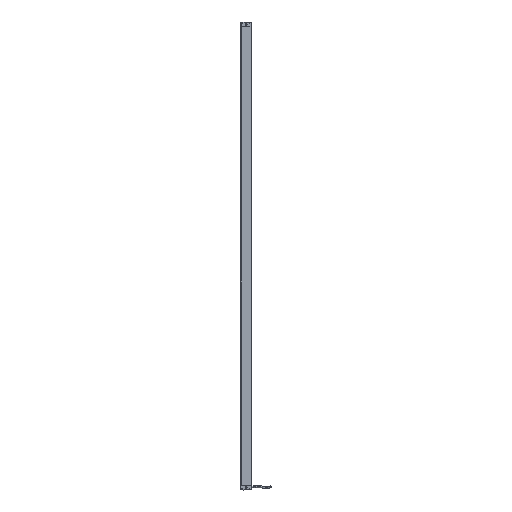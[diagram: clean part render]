
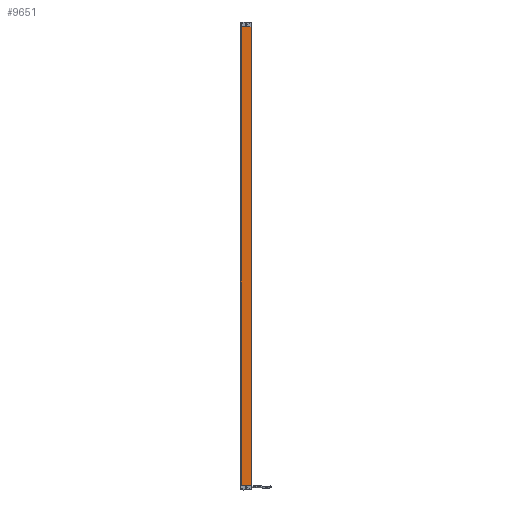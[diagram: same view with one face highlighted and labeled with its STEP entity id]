
A CAD part, top view. The second image highlights one B-rep face of the part: STEP entity #9651.
In plain terms, the highlighted planar face has unit normal (-0.001, 0, 1).
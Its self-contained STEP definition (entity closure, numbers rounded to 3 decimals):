
#226 = CARTESIAN_POINT ( 'NONE',  ( 12.99, 1202., 0.01 ) ) ;
#414 = VECTOR ( 'NONE', #17314, 1000. ) ;
#1065 = LINE ( 'NONE', #4130, #3381 ) ;
#1521 = DIRECTION ( 'NONE',  ( 1., 0., 0.001 ) ) ;
#1821 = CARTESIAN_POINT ( 'NONE',  ( 12.99, 0., 0.01 ) ) ;
#2467 = VERTEX_POINT ( 'NONE', #1821 ) ;
#2738 = DIRECTION ( 'NONE',  ( 0., -1., 0. ) ) ;
#3381 = VECTOR ( 'NONE', #19032, 1000. ) ;
#4130 = CARTESIAN_POINT ( 'NONE',  ( -12.99, 1202., -0.01 ) ) ;
#4726 = CARTESIAN_POINT ( 'NONE',  ( 0., 1202., 0. ) ) ;
#4927 = EDGE_CURVE ( 'NONE', #21671, #22432, #6033, .T. ) ;
#5364 = FACE_OUTER_BOUND ( 'NONE', #17248, .T. ) ;
#5677 = AXIS2_PLACEMENT_3D ( 'NONE', #4726, #17380, #8835 ) ;
#6033 = LINE ( 'NONE', #14367, #21004 ) ;
#6143 = ORIENTED_EDGE ( 'NONE', *, *, #4927, .F. ) ;
#6797 = CARTESIAN_POINT ( 'NONE',  ( 0., 0., 0. ) ) ;
#8835 = DIRECTION ( 'NONE',  ( -1., 0., -0.001 ) ) ;
#9651 = ADVANCED_FACE ( 'NONE', ( #5364 ), #23704, .F. ) ;
#9964 = ORIENTED_EDGE ( 'NONE', *, *, #23633, .T. ) ;
#10692 = ORIENTED_EDGE ( 'NONE', *, *, #16872, .T. ) ;
#12237 = VECTOR ( 'NONE', #2738, 1000. ) ;
#12563 = LINE ( 'NONE', #21714, #12237 ) ;
#13838 = VERTEX_POINT ( 'NONE', #17826 ) ;
#14367 = CARTESIAN_POINT ( 'NONE',  ( 0., 1202., 0. ) ) ;
#16872 = EDGE_CURVE ( 'NONE', #21671, #13838, #1065, .T. ) ;
#17248 = EDGE_LOOP ( 'NONE', ( #9964, #23011, #6143, #10692 ) ) ;
#17314 = DIRECTION ( 'NONE',  ( 1., 0., 0.001 ) ) ;
#17380 = DIRECTION ( 'NONE',  ( 0.001, 0., -1. ) ) ;
#17826 = CARTESIAN_POINT ( 'NONE',  ( -12.99, 0., -0.01 ) ) ;
#18767 = LINE ( 'NONE', #6797, #414 ) ;
#18859 = CARTESIAN_POINT ( 'NONE',  ( -12.99, 1202., -0.01 ) ) ;
#19032 = DIRECTION ( 'NONE',  ( 0., -1., 0. ) ) ;
#19380 = EDGE_CURVE ( 'NONE', #22432, #2467, #12563, .T. ) ;
#21004 = VECTOR ( 'NONE', #1521, 1000. ) ;
#21671 = VERTEX_POINT ( 'NONE', #18859 ) ;
#21714 = CARTESIAN_POINT ( 'NONE',  ( 12.99, 1202., 0.01 ) ) ;
#22432 = VERTEX_POINT ( 'NONE', #226 ) ;
#23011 = ORIENTED_EDGE ( 'NONE', *, *, #19380, .F. ) ;
#23633 = EDGE_CURVE ( 'NONE', #13838, #2467, #18767, .T. ) ;
#23704 = PLANE ( 'NONE',  #5677 ) ;
